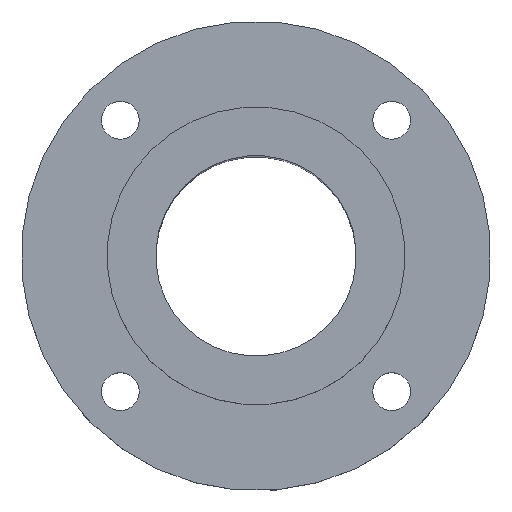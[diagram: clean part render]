
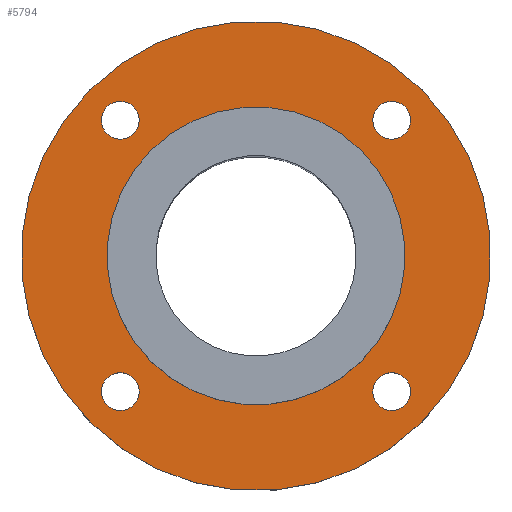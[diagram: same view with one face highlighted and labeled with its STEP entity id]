
A CAD part, top view. The second image highlights one B-rep face of the part: STEP entity #5794.
In plain terms, the highlighted planar face has unit normal (0, 0, 1).
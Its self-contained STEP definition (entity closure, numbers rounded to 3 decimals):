
#114=CIRCLE('',#6159,26.);
#118=CIRCLE('',#6167,41.);
#119=CIRCLE('',#6169,3.3);
#120=CIRCLE('',#6170,3.3);
#121=CIRCLE('',#6171,3.3);
#122=CIRCLE('',#6172,3.3);
#531=ORIENTED_EDGE('',*,*,#2197,.F.);
#532=ORIENTED_EDGE('',*,*,#2198,.F.);
#533=ORIENTED_EDGE('',*,*,#2199,.F.);
#534=ORIENTED_EDGE('',*,*,#2200,.F.);
#535=ORIENTED_EDGE('',*,*,#2192,.T.);
#536=ORIENTED_EDGE('',*,*,#2196,.T.);
#2192=EDGE_CURVE('',#3028,#3028,#114,.F.);
#2196=EDGE_CURVE('',#3032,#3032,#118,.T.);
#2197=EDGE_CURVE('',#3033,#3033,#119,.T.);
#2198=EDGE_CURVE('',#3034,#3034,#120,.T.);
#2199=EDGE_CURVE('',#3035,#3035,#121,.T.);
#2200=EDGE_CURVE('',#3036,#3036,#122,.T.);
#3028=VERTEX_POINT('',#9194);
#3032=VERTEX_POINT('',#9206);
#3033=VERTEX_POINT('',#9209);
#3034=VERTEX_POINT('',#9211);
#3035=VERTEX_POINT('',#9213);
#3036=VERTEX_POINT('',#9215);
#4754=EDGE_LOOP('',(#531));
#4755=EDGE_LOOP('',(#532));
#4756=EDGE_LOOP('',(#533));
#4757=EDGE_LOOP('',(#534));
#4758=EDGE_LOOP('',(#535));
#4759=EDGE_LOOP('',(#536));
#5170=FACE_BOUND('',#4754,.T.);
#5171=FACE_BOUND('',#4755,.T.);
#5172=FACE_BOUND('',#4756,.T.);
#5173=FACE_BOUND('',#4757,.T.);
#5174=FACE_BOUND('',#4758,.T.);
#5175=FACE_BOUND('',#4759,.T.);
#5528=PLANE('',#6168);
#5794=ADVANCED_FACE('',(#5170,#5171,#5172,#5173,#5174,#5175),#5528,.T.);
#6159=AXIS2_PLACEMENT_3D('',#9193,#6689,#6690);
#6167=AXIS2_PLACEMENT_3D('',#9205,#6705,#6706);
#6168=AXIS2_PLACEMENT_3D('',#9207,#6707,#6708);
#6169=AXIS2_PLACEMENT_3D('',#9208,#6709,#6710);
#6170=AXIS2_PLACEMENT_3D('',#9210,#6711,#6712);
#6171=AXIS2_PLACEMENT_3D('',#9212,#6713,#6714);
#6172=AXIS2_PLACEMENT_3D('',#9214,#6715,#6716);
#6689=DIRECTION('',(0.,0.,1.));
#6690=DIRECTION('',(0.707,-0.707,0.));
#6705=DIRECTION('',(0.,0.,1.));
#6706=DIRECTION('',(0.707,-0.707,0.));
#6707=DIRECTION('',(0.,0.,1.));
#6708=DIRECTION('',(0.707,-0.707,0.));
#6709=DIRECTION('',(0.,0.,1.));
#6710=DIRECTION('',(0.707,-0.707,0.));
#6711=DIRECTION('',(0.,0.,1.));
#6712=DIRECTION('',(0.707,-0.707,0.));
#6713=DIRECTION('',(0.,0.,1.));
#6714=DIRECTION('',(0.707,-0.707,0.));
#6715=DIRECTION('',(0.,0.,1.));
#6716=DIRECTION('',(0.707,-0.707,0.));
#9193=CARTESIAN_POINT('',(0.,0.,0.));
#9194=CARTESIAN_POINT('',(18.385,-18.385,0.));
#9205=CARTESIAN_POINT('',(0.,0.,0.));
#9206=CARTESIAN_POINT('',(28.991,-28.991,0.));
#9207=CARTESIAN_POINT('',(0.,0.,0.));
#9208=CARTESIAN_POINT('',(23.688,23.688,0.));
#9209=CARTESIAN_POINT('',(26.022,21.355,0.));
#9210=CARTESIAN_POINT('',(-23.688,23.688,0.));
#9211=CARTESIAN_POINT('',(-21.355,21.355,0.));
#9212=CARTESIAN_POINT('',(-23.688,-23.688,0.));
#9213=CARTESIAN_POINT('',(-21.355,-26.022,0.));
#9214=CARTESIAN_POINT('',(23.688,-23.688,0.));
#9215=CARTESIAN_POINT('',(26.022,-26.022,0.));
